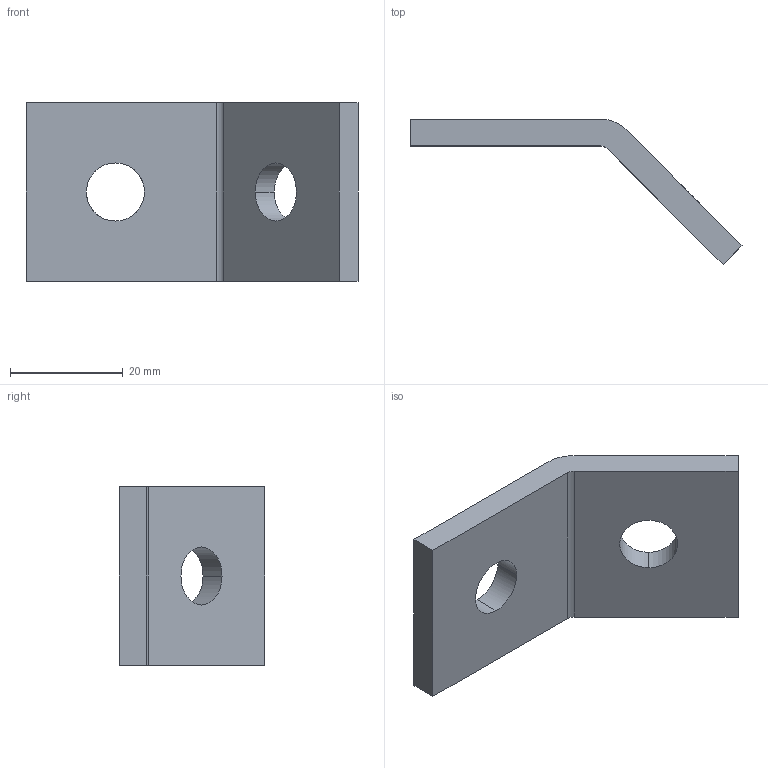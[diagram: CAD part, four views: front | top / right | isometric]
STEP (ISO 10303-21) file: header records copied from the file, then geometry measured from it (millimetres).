
FILE_DESCRIPTION(('TurboCAD Mac Pro'),'Build 980');
FILE_NAME('A2126.stp',' ',(''),(''),'ACIS Interop','IMSI','TurboCAD Mac Pro BY IMSI, INCORPORATED');
FILE_SCHEMA(('automotive_design'));
Length unit declared in the file: inch
Products named in the file (1): 1
Bounding box: 58.96 x 25.82 x 31.75 mm (x, y, z)
Volume: 9200.9 mm3; surface area: 5105 mm2
Topology: 1 solids, 1 shells, 18 faces, 48 edges, 32 vertices
Faces by surface type: bspline 10, plane 8
Entity records: 981 total; most frequent: CARTESIAN_POINT 294, ORIENTED_EDGE 96, DIRECTION 52, EDGE_CURVE 48, STYLED_ITEM 43, PRESENTATION_STYLE_ASSIGNMENT 43, COLOUR_RGB 43, VERTEX_POINT 32
